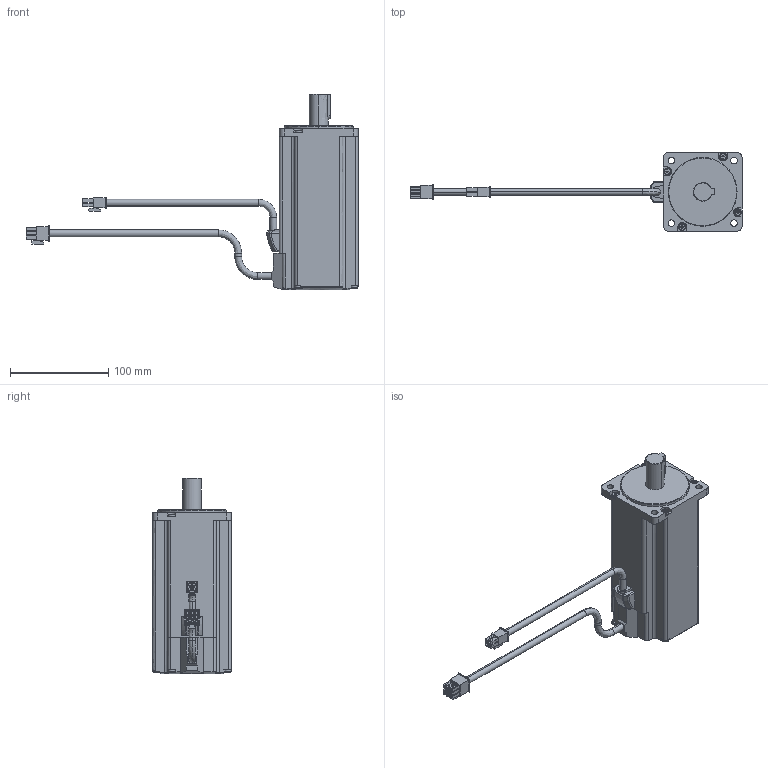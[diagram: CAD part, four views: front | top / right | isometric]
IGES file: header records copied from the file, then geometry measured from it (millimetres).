
Start section:  PTC IGES file: 10001046_rsmz-10bq-bh_no-brake.igs
Global section: file name: 10001046_rsmz-10bq-bh_no-brake.igs; native system: Pro/ENGINEER by Parametric Technology Corporation; preprocessor: 2004440; author: Administrator; organization: Unknown; date: 070829.201758; units: millimetre
Bounding box: 337.7 x 80 x 199 mm (x, y, z)
Volume: 941956.6 mm3; surface area: 82245.5 mm2
Topology: 1 solids, 1 shells, 462 faces, 1172 edges, 760 vertices
Faces by surface type: bspline 332, revolution 130
